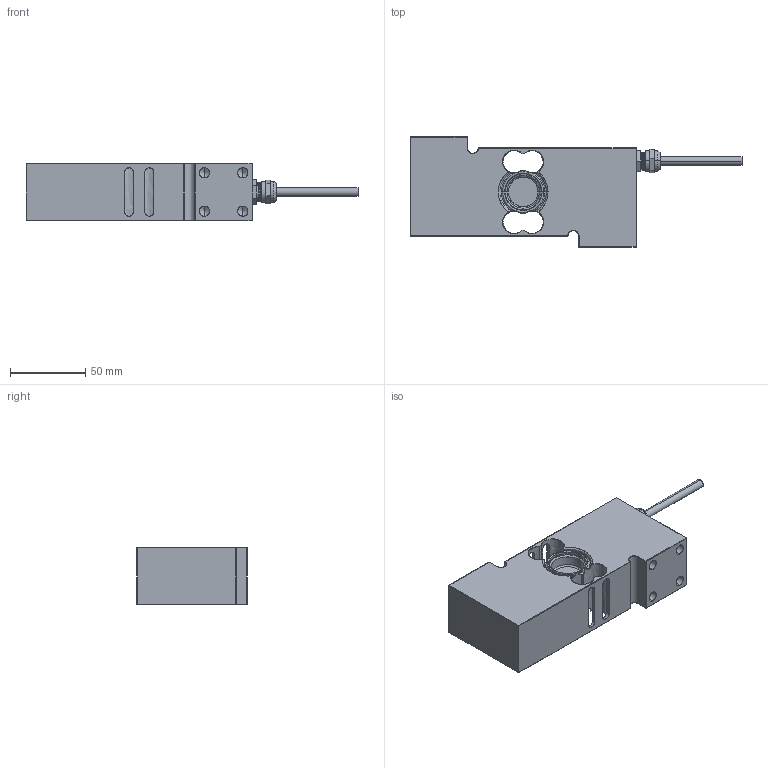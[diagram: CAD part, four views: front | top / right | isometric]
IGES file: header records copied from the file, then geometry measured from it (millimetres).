
Start section: SolidWorks IGES file using analytic representation for surfaces
Global section: file name: C:\Users\nasc01\Desktop\Assemblies for Conversion\Load_Sensor_HISP7\Load_Sensor_HISP7_3D\Load_Sensor_HISP7.IGS; native system: SolidWorks 2013; preprocessor: SolidWorks 2013; author: nasc01; date: 141008.162156; units: millimetre
Bounding box: 220 x 73 x 38.1 mm (x, y, z)
Surface area: 47195 mm2 (no closed solid volume)
Topology: 0 solids, 0 shells, 322 faces, 3924 edges, 3884 vertices
Faces by surface type: revolution 183, bspline 139
